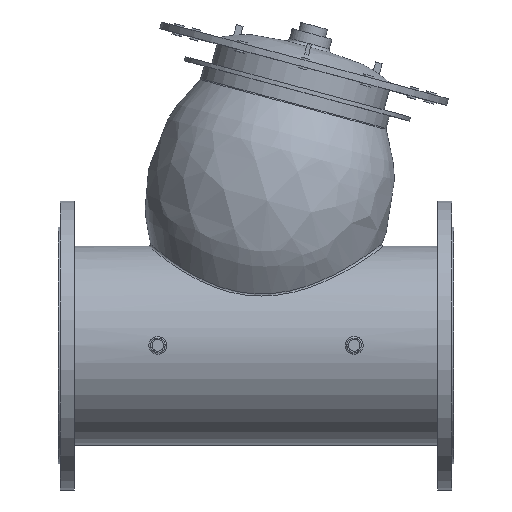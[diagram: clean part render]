
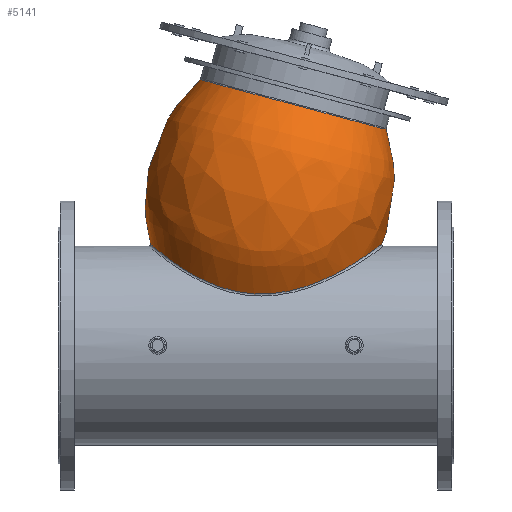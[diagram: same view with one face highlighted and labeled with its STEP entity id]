
A CAD part, top view. The second image highlights one B-rep face of the part: STEP entity #5141.
In plain terms, the highlighted free-form (B-spline) face has degree [2, 2] with [3, 9] control points.
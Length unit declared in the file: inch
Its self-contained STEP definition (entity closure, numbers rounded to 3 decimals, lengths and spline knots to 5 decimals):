
#369=B_SPLINE_CURVE_WITH_KNOTS('',3,(#7392,#7393,#7394,#7395,#7396,#7397,
#7398,#7399,#7400,#7401,#7402,#7403,#7404,#7405,#7406,#7407,#7408,#7409,
#7410,#7411,#7412,#7413,#7414,#7415,#7416,#7417,#7418,#7419,#7420),
 .UNSPECIFIED.,.F.,.F.,(4,1,1,1,1,1,1,1,1,1,1,1,1,1,1,1,1,1,1,1,1,1,1,1,
1,1,4),(0.,2.18212,4.36425,8.72849,13.09274,
17.45699,23.27598,29.09498,32.00448,34.91397,
37.82347,40.73297,46.55196,50.43129,52.37096,
56.25029,58.18996,61.09945,64.00895,66.91845,
69.82795,72.73744,75.64694,81.46594,84.37544,
87.28493,87.68759),.UNSPECIFIED.);
#370=B_SPLINE_CURVE_WITH_KNOTS('',3,(#7421,#7422,#7423,#7424,#7425,#7426,
#7427,#7428,#7429,#7430,#7431,#7432),.UNSPECIFIED.,.F.,.F.,(4,1,1,1,1,1,
1,1,1,4),(87.68759,91.64918,96.01343,100.37767,
104.74192,109.10617,113.47041,117.83466,120.01678,
122.19891),.UNSPECIFIED.);
#402=(
BOUNDED_CURVE()
B_SPLINE_CURVE(2,(#7388,#7389,#7390),.UNSPECIFIED.,.F.,.F.)
B_SPLINE_CURVE_WITH_KNOTS((3,3),(-0.57928,0.68886),
 .UNSPECIFIED.)
CURVE()
GEOMETRIC_REPRESENTATION_ITEM()
RATIONAL_B_SPLINE_CURVE((1.,0.805,0.998))
REPRESENTATION_ITEM('')
);
#405=(
BOUNDED_SURFACE()
B_SPLINE_SURFACE(2,2,((#7360,#7361,#7362,#7363,#7364,#7365,#7366,#7367,
#7368),(#7369,#7370,#7371,#7372,#7373,#7374,#7375,#7376,#7377),(#7378,#7379,
#7380,#7381,#7382,#7383,#7384,#7385,#7386)),.UNSPECIFIED.,.F.,.T.,.F.)
B_SPLINE_SURFACE_WITH_KNOTS((3,3),(3,2,2,2,3),(-0.6959,0.57928),
(-3.14159,-1.5708,0.,1.5708,3.14159),
 .UNSPECIFIED.)
GEOMETRIC_REPRESENTATION_ITEM()
RATIONAL_B_SPLINE_SURFACE(((1.,0.707,1.,0.707,1.,
0.707,1.,0.707,1.),(0.804,0.568,
0.804,0.568,0.804,0.568,
0.804,0.568,0.804),(1.,0.707,
1.,0.707,1.,0.707,1.,0.707,1.)))
REPRESENTATION_ITEM('')
SURFACE()
);
#442=FACE_OUTER_BOUND('',#711,.T.);
#711=EDGE_LOOP('',(#3534,#3535,#3536,#3537,#3538,#3539));
#2162=CIRCLE('',#5494,7.02447);
#2167=CIRCLE('',#5499,7.02447);
#2299=VERTEX_POINT('',#7349);
#2300=VERTEX_POINT('',#7350);
#2304=VERTEX_POINT('',#7387);
#2305=VERTEX_POINT('',#7391);
#2802=EDGE_CURVE('',#2299,#2300,#2162,.T.);
#2807=EDGE_CURVE('',#2300,#2299,#2167,.T.);
#2808=EDGE_CURVE('',#2300,#2304,#402,.T.);
#2809=EDGE_CURVE('',#2305,#2304,#369,.T.);
#2810=EDGE_CURVE('',#2304,#2305,#370,.T.);
#3534=ORIENTED_EDGE('',*,*,#2802,.F.);
#3535=ORIENTED_EDGE('',*,*,#2807,.F.);
#3536=ORIENTED_EDGE('',*,*,#2808,.T.);
#3537=ORIENTED_EDGE('',*,*,#2809,.F.);
#3538=ORIENTED_EDGE('',*,*,#2810,.F.);
#3539=ORIENTED_EDGE('',*,*,#2808,.F.);
#5141=ADVANCED_FACE('',(#442),#405,.F.);
#5494=AXIS2_PLACEMENT_3D('',#7351,#6037,#6038);
#5499=AXIS2_PLACEMENT_3D('',#7359,#6047,#6048);
#6037=DIRECTION('center_axis',(0.259,0.966,0.));
#6038=DIRECTION('ref_axis',(0.966,-0.259,0.));
#6047=DIRECTION('center_axis',(0.259,0.966,0.));
#6048=DIRECTION('ref_axis',(0.966,-0.259,0.));
#7349=CARTESIAN_POINT('',(-4.07891,19.38186,0.));
#7350=CARTESIAN_POINT('',(2.7062,17.5638,-7.02447));
#7351=CARTESIAN_POINT('Origin',(2.7062,17.5638,0.));
#7359=CARTESIAN_POINT('Origin',(2.7062,17.5638,0.));
#7360=CARTESIAN_POINT('Ctrl Pts',(-0.98506,3.78782,-6.19192));
#7361=CARTESIAN_POINT('Ctrl Pts',(-6.966,5.39041,-6.19192));
#7362=CARTESIAN_POINT('Ctrl Pts',(-6.966,5.39041,0.));
#7363=CARTESIAN_POINT('Ctrl Pts',(-6.966,5.39041,6.19192));
#7364=CARTESIAN_POINT('Ctrl Pts',(-0.98506,3.78782,6.19192));
#7365=CARTESIAN_POINT('Ctrl Pts',(4.99588,2.18523,6.19192));
#7366=CARTESIAN_POINT('Ctrl Pts',(4.99588,2.18523,0.));
#7367=CARTESIAN_POINT('Ctrl Pts',(4.99588,2.18523,-6.19192));
#7368=CARTESIAN_POINT('Ctrl Pts',(-0.98506,3.78782,-6.19192));
#7369=CARTESIAN_POINT('Ctrl Pts',(0.78076,10.37794,-11.89083));
#7370=CARTESIAN_POINT('Ctrl Pts',(-10.7049,13.45551,-11.89083));
#7371=CARTESIAN_POINT('Ctrl Pts',(-10.7049,13.45551,0.));
#7372=CARTESIAN_POINT('Ctrl Pts',(-10.7049,13.45551,11.89083));
#7373=CARTESIAN_POINT('Ctrl Pts',(0.78076,10.37794,11.89083));
#7374=CARTESIAN_POINT('Ctrl Pts',(12.26642,7.30037,11.89083));
#7375=CARTESIAN_POINT('Ctrl Pts',(12.26642,7.30037,0.));
#7376=CARTESIAN_POINT('Ctrl Pts',(12.26642,7.30037,-11.89083));
#7377=CARTESIAN_POINT('Ctrl Pts',(0.78076,10.37794,-11.89083));
#7378=CARTESIAN_POINT('Ctrl Pts',(2.7062,17.5638,-7.02447));
#7379=CARTESIAN_POINT('Ctrl Pts',(-4.07891,19.38186,-7.02447));
#7380=CARTESIAN_POINT('Ctrl Pts',(-4.07891,19.38186,0.));
#7381=CARTESIAN_POINT('Ctrl Pts',(-4.07891,19.38186,7.02447));
#7382=CARTESIAN_POINT('Ctrl Pts',(2.7062,17.5638,7.02447));
#7383=CARTESIAN_POINT('Ctrl Pts',(9.49132,15.74573,7.02447));
#7384=CARTESIAN_POINT('Ctrl Pts',(9.49132,15.74573,0.));
#7385=CARTESIAN_POINT('Ctrl Pts',(9.49132,15.74573,-7.02447));
#7386=CARTESIAN_POINT('Ctrl Pts',(2.7062,17.5638,-7.02447));
#7387=CARTESIAN_POINT('',(-0.96935,3.84645,-6.24232));
#7388=CARTESIAN_POINT('Ctrl Pts',(2.7062,17.5638,-7.02447));
#7389=CARTESIAN_POINT('Ctrl Pts',(0.79396,10.42722,-11.85746));
#7390=CARTESIAN_POINT('Ctrl Pts',(-0.96934,3.84648,-6.24231));
#7391=CARTESIAN_POINT('',(9.18387,7.42268,0.));
#7392=CARTESIAN_POINT('Ctrl Pts',(9.18387,7.42268,0.));
#7393=CARTESIAN_POINT('Ctrl Pts',(9.18387,7.42268,0.29812));
#7394=CARTESIAN_POINT('Ctrl Pts',(9.13613,7.38547,0.89394));
#7395=CARTESIAN_POINT('Ctrl Pts',(8.85743,7.17114,2.04052));
#7396=CARTESIAN_POINT('Ctrl Pts',(8.20003,6.68133,3.31096));
#7397=CARTESIAN_POINT('Ctrl Pts',(7.06137,5.91572,4.48397));
#7398=CARTESIAN_POINT('Ctrl Pts',(5.52642,5.03766,5.42011));
#7399=CARTESIAN_POINT('Ctrl Pts',(3.58521,4.20011,6.04674));
#7400=CARTESIAN_POINT('Ctrl Pts',(1.64155,3.76969,6.29084));
#7401=CARTESIAN_POINT('Ctrl Pts',(0.0482,3.72359,6.31498));
#7402=CARTESIAN_POINT('Ctrl Pts',(-1.13734,3.84716,6.24275));
#7403=CARTESIAN_POINT('Ctrl Pts',(-2.28674,4.12387,6.07287));
#7404=CARTESIAN_POINT('Ctrl Pts',(-3.73722,4.66227,5.69908));
#7405=CARTESIAN_POINT('Ctrl Pts',(-5.13676,5.44512,5.02493));
#7406=CARTESIAN_POINT('Ctrl Pts',(-6.18402,6.18435,4.0684));
#7407=CARTESIAN_POINT('Ctrl Pts',(-6.9023,6.73803,3.09992));
#7408=CARTESIAN_POINT('Ctrl Pts',(-7.33636,7.10025,2.19133));
#7409=CARTESIAN_POINT('Ctrl Pts',(-7.6274,7.35131,1.05873));
#7410=CARTESIAN_POINT('Ctrl Pts',(-7.72747,7.4398,0.00005));
#7411=CARTESIAN_POINT('Ctrl Pts',(-7.6149,7.34032,-1.19173));
#7412=CARTESIAN_POINT('Ctrl Pts',(-7.288,7.05854,-2.31122));
#7413=CARTESIAN_POINT('Ctrl Pts',(-6.7731,6.63549,-3.30742));
#7414=CARTESIAN_POINT('Ctrl Pts',(-6.10064,6.12238,-4.15408));
#7415=CARTESIAN_POINT('Ctrl Pts',(-5.02911,5.38491,-5.07655));
#7416=CARTESIAN_POINT('Ctrl Pts',(-3.73715,4.66217,-5.69929));
#7417=CARTESIAN_POINT('Ctrl Pts',(-2.2866,4.12392,-6.0728));
#7418=CARTESIAN_POINT('Ctrl Pts',(-1.46746,3.92648,-6.19398));
#7419=CARTESIAN_POINT('Ctrl Pts',(-1.02344,3.85466,-6.23736));
#7420=CARTESIAN_POINT('Ctrl Pts',(-0.96936,3.84642,-6.24233));
#7421=CARTESIAN_POINT('Ctrl Pts',(-0.96936,3.84642,-6.24233));
#7422=CARTESIAN_POINT('Ctrl Pts',(-0.43724,3.76536,-6.29117));
#7423=CARTESIAN_POINT('Ctrl Pts',(0.70245,3.69527,-6.33094));
#7424=CARTESIAN_POINT('Ctrl Pts',(2.42776,3.91527,-6.21138));
#7425=CARTESIAN_POINT('Ctrl Pts',(4.12095,4.42527,-5.88615));
#7426=CARTESIAN_POINT('Ctrl Pts',(5.68016,5.12537,-5.32651));
#7427=CARTESIAN_POINT('Ctrl Pts',(7.06113,5.91573,-4.48403));
#7428=CARTESIAN_POINT('Ctrl Pts',(8.20009,6.68127,-3.31103));
#7429=CARTESIAN_POINT('Ctrl Pts',(8.85738,7.17115,-2.04055));
#7430=CARTESIAN_POINT('Ctrl Pts',(9.13615,7.38546,-0.89393));
#7431=CARTESIAN_POINT('Ctrl Pts',(9.18387,7.42268,-0.29812));
#7432=CARTESIAN_POINT('Ctrl Pts',(9.18387,7.42268,0.));
